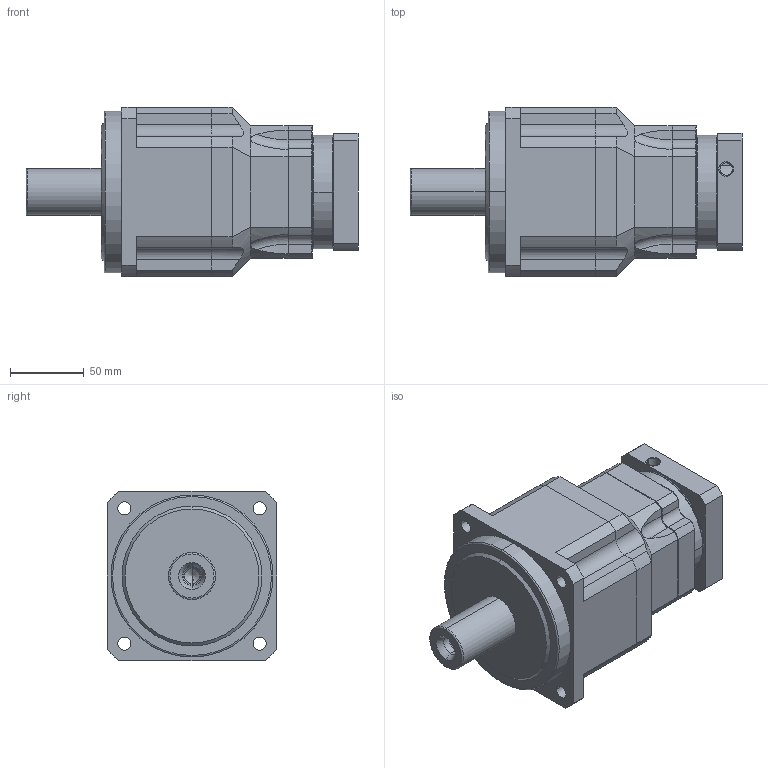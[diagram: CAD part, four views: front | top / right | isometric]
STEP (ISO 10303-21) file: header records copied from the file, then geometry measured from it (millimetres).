
FILE_DESCRIPTION((''),'2;1');
FILE_NAME('AB1152-P0403300208_ASM','2021-10-20T',('Administrator'),(''),'PRO/ENGINEER BY PARAMETRIC TECHNOLOGY CORPORATION, 2015240','PRO/ENGINEER BY PARAMETRIC TECHNOLOGY CORPORATION, 2015240','');
FILE_SCHEMA(('CONFIG_CONTROL_DESIGN'));
Length unit declared in the file: millimetre
Products named in the file (7): P1301300001_D; AB1152-1; AB115; AB-INPUTSHAFT-3; AB1152_ASM; P0403300208-0006; AB1152-P0403300208_ASM
Assembly tree (6 placements, depth 3):
  AB1152-P0403300208_ASM
    AB1152_ASM
      P1301300001_D
      AB1152-1
      AB115
      AB-INPUTSHAFT-3
    P0403300208-0006
Bounding box: 225.5 x 115 x 115 mm (x, y, z)
Volume: 1582975.7 mm3; surface area: 158670 mm2
Topology: 5 solids, 11 shells, 316 faces, 771 edges, 491 vertices
Faces by surface type: cylinder 151, plane 107, cone 30, torus 24, bspline 4
Entity records: 10007 total; most frequent: CARTESIAN_POINT 2158, DIRECTION 1733, ORIENTED_EDGE 1512, EDGE_CURVE 769, AXIS2_PLACEMENT_3D 694, VERTEX_POINT 491, EDGE_LOOP 372, CIRCLE 361
